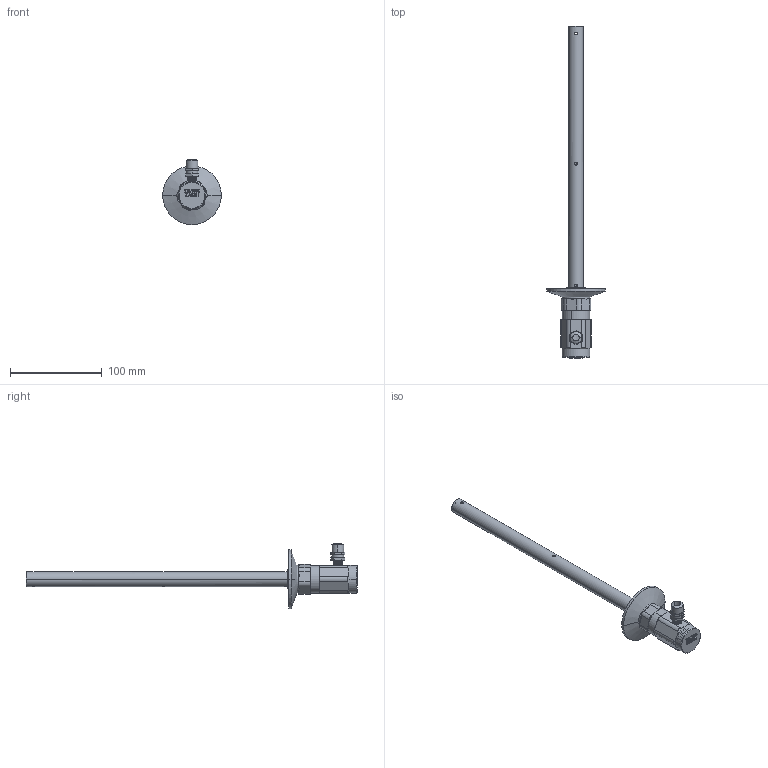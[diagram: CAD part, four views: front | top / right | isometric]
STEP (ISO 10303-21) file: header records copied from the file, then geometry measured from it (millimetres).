
FILE_DESCRIPTION((''),'2;1');
FILE_NAME('0004_ASM','2026-01-26T11:12:27',('28740194'),(''),'CREO PARAMETRIC BY PTC INC, 2024063','CREO PARAMETRIC BY PTC INC, 2024063','');
FILE_SCHEMA(('CONFIG_CONTROL_DESIGN'));
Length unit declared in the file: millimetre
Products named in the file (9): KS_LV_605_01_GAIZI; PRT0027; KS_LV_605_03_SUOJINLUOMU; 0005; 160001; KS_LV_605_16DIBUSAIZI; FALANV0_2; 000; 0004_ASM
Assembly tree (8 placements, depth 2):
  0004_ASM
    KS_LV_605_01_GAIZI
    PRT0027
    KS_LV_605_03_SUOJINLUOMU
    0005
    160001
    KS_LV_605_16DIBUSAIZI
    FALANV0_2
    000
Bounding box: 63.91 x 361.5 x 71.04 mm (x, y, z)
Volume: 91197.4 mm3; surface area: 68661.4 mm2
Topology: 8 solids, 9 shells, 810 faces, 2268 edges, 1509 vertices
Faces by surface type: plane 437, cylinder 238, bspline 84, cone 30, torus 20, extrusion 1
Entity records: 48447 total; most frequent: CARTESIAN_POINT 28384, ORIENTED_EDGE 4528, DIRECTION 3496, EDGE_CURVE 2266, VERTEX_POINT 1509, VECTOR 1392, LINE 1391, AXIS2_PLACEMENT_3D 1052
